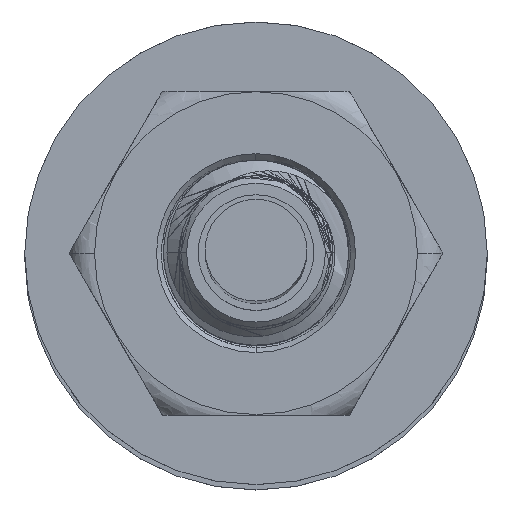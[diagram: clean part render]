
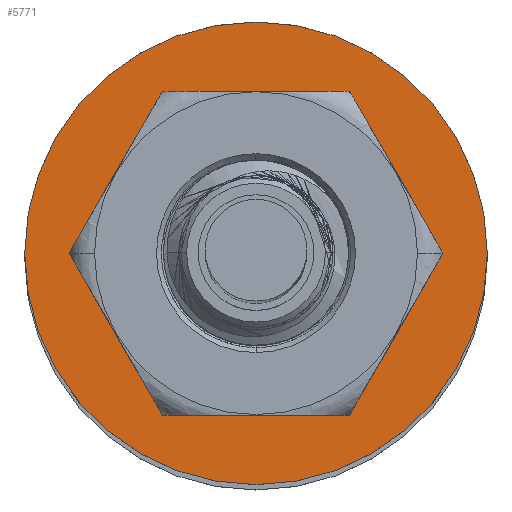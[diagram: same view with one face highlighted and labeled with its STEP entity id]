
A CAD part, top view. The second image highlights one B-rep face of the part: STEP entity #5771.
In plain terms, the highlighted planar face has unit normal (0, 0, 1).
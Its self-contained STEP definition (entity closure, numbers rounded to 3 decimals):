
#7 = CARTESIAN_POINT ( 'NONE',  ( 0., 0., 0.5 ) ) ;
#715 = EDGE_CURVE ( 'NONE', #4031, #9738, #8527, .T. ) ;
#723 = DIRECTION ( 'NONE',  ( 1., 0., 0. ) ) ;
#1474 = CARTESIAN_POINT ( 'NONE',  ( 0., 0., 0.5 ) ) ;
#1817 = CARTESIAN_POINT ( 'NONE',  ( -5., 0., 0.5 ) ) ;
#1943 = DIRECTION ( 'NONE',  ( 0., 0., 1. ) ) ;
#2811 = CIRCLE ( 'NONE', #10515, 5. ) ;
#3108 = ORIENTED_EDGE ( 'NONE', *, *, #5901, .T. ) ;
#3290 = DIRECTION ( 'NONE',  ( 1., 0., 0. ) ) ;
#4031 = VERTEX_POINT ( 'NONE', #5346 ) ;
#4334 = AXIS2_PLACEMENT_3D ( 'NONE', #7, #1943, #6088 ) ;
#4439 = DIRECTION ( 'NONE',  ( 1., 0., 0. ) ) ;
#4465 = DIRECTION ( 'NONE',  ( 0., 0., 1. ) ) ;
#5050 = DIRECTION ( 'NONE',  ( 0., 0., 1. ) ) ;
#5177 = CARTESIAN_POINT ( 'NONE',  ( 5., 0., 0.5 ) ) ;
#5346 = CARTESIAN_POINT ( 'NONE',  ( 2.25, 0., 0.5 ) ) ;
#5403 = AXIS2_PLACEMENT_3D ( 'NONE', #1474, #5050, #723 ) ;
#5732 = VERTEX_POINT ( 'NONE', #5177 ) ;
#5771 = ADVANCED_FACE ( 'NONE', ( #8489, #13456 ), #9328, .T. ) ;
#5901 = EDGE_CURVE ( 'NONE', #5732, #11524, #2811, .T. ) ;
#6088 = DIRECTION ( 'NONE',  ( 1., 0., 0. ) ) ;
#6683 = CARTESIAN_POINT ( 'NONE',  ( -2.25, 0., 0.5 ) ) ;
#7439 = DIRECTION ( 'NONE',  ( 0., 0., 1. ) ) ;
#7609 = CIRCLE ( 'NONE', #9372, 5. ) ;
#8296 = EDGE_LOOP ( 'NONE', ( #12505, #10484 ) ) ;
#8300 = AXIS2_PLACEMENT_3D ( 'NONE', #9760, #11961, #3290 ) ;
#8489 = FACE_OUTER_BOUND ( 'NONE', #13543, .T. ) ;
#8527 = CIRCLE ( 'NONE', #8300, 2.25 ) ;
#8602 = CARTESIAN_POINT ( 'NONE',  ( 0., 0., 0.5 ) ) ;
#8689 = DIRECTION ( 'NONE',  ( 1., 0., 0. ) ) ;
#9328 = PLANE ( 'NONE',  #4334 ) ;
#9372 = AXIS2_PLACEMENT_3D ( 'NONE', #8602, #7439, #4439 ) ;
#9665 = CARTESIAN_POINT ( 'NONE',  ( 0., 0., 0.5 ) ) ;
#9738 = VERTEX_POINT ( 'NONE', #6683 ) ;
#9760 = CARTESIAN_POINT ( 'NONE',  ( 0., 0., 0.5 ) ) ;
#10484 = ORIENTED_EDGE ( 'NONE', *, *, #715, .F. ) ;
#10496 = EDGE_CURVE ( 'NONE', #11524, #5732, #7609, .T. ) ;
#10515 = AXIS2_PLACEMENT_3D ( 'NONE', #9665, #4465, #8689 ) ;
#11467 = EDGE_CURVE ( 'NONE', #9738, #4031, #12456, .T. ) ;
#11524 = VERTEX_POINT ( 'NONE', #1817 ) ;
#11961 = DIRECTION ( 'NONE',  ( 0., 0., 1. ) ) ;
#12456 = CIRCLE ( 'NONE', #5403, 2.25 ) ;
#12505 = ORIENTED_EDGE ( 'NONE', *, *, #11467, .F. ) ;
#12578 = ORIENTED_EDGE ( 'NONE', *, *, #10496, .T. ) ;
#13456 = FACE_BOUND ( 'NONE', #8296, .T. ) ;
#13543 = EDGE_LOOP ( 'NONE', ( #12578, #3108 ) ) ;
